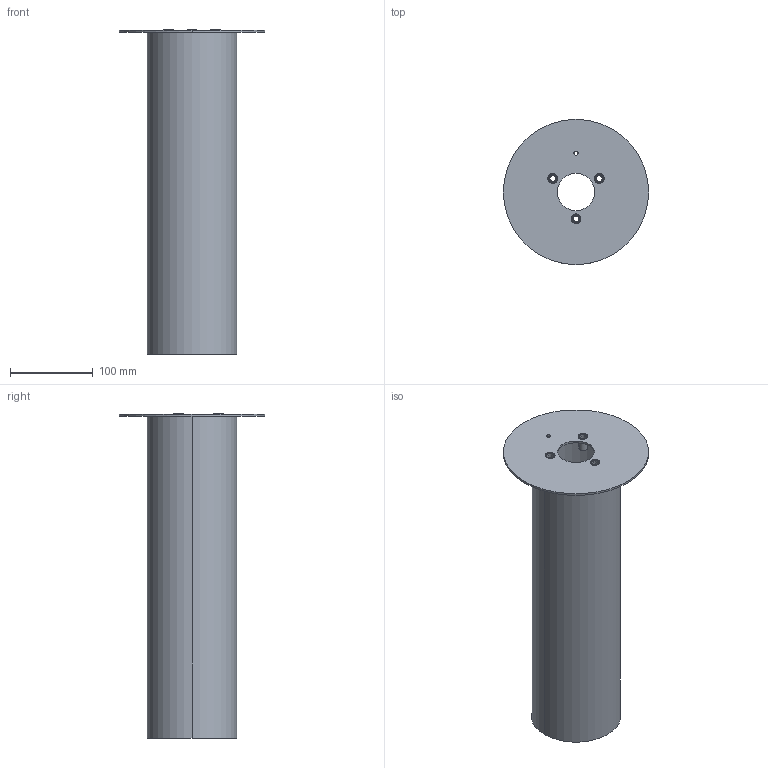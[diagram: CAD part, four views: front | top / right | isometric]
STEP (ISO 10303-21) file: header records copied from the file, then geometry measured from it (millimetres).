
FILE_DESCRIPTION (( 'STEP AP203' ), '1' );
FILE_NAME ('6133.STEP', '2020-07-09T12:17:49', ( '' ), ( '' ), 'SwSTEP 2.0', 'SolidWorks 2019', '' );
FILE_SCHEMA (( 'CONFIG_CONTROL_DESIGN' ));
Length unit declared in the file: millimetre
Products named in the file (4): NN Z FAZ･ M8_rs_3,0; Podstawa spawana_Podst 206N_390; Bl.podstawy_art. 6132; 6133; 6133
Assembly tree (5 placements, depth 2):
  6133
    Podstawa spawana_Podst 206N_390
    NN Z FAZ･ M8_rs_3,0  x3
    Bl.podstawy_art. 6132; 6133
Bounding box: 176 x 176 x 393 mm (x, y, z)
Volume: 507215.4 mm3; surface area: 308913.9 mm2
Topology: 5 solids, 5 shells, 110 faces, 228 edges, 134 vertices
Faces by surface type: cylinder 46, cone 30, torus 18, plane 16
Entity records: 1886 total; most frequent: DIRECTION 296, CARTESIAN_POINT 232, ORIENTED_EDGE 216, AXIS2_PLACEMENT_3D 130, EDGE_CURVE 108, CIRCLE 72, EDGE_LOOP 66, VERTEX_POINT 66
